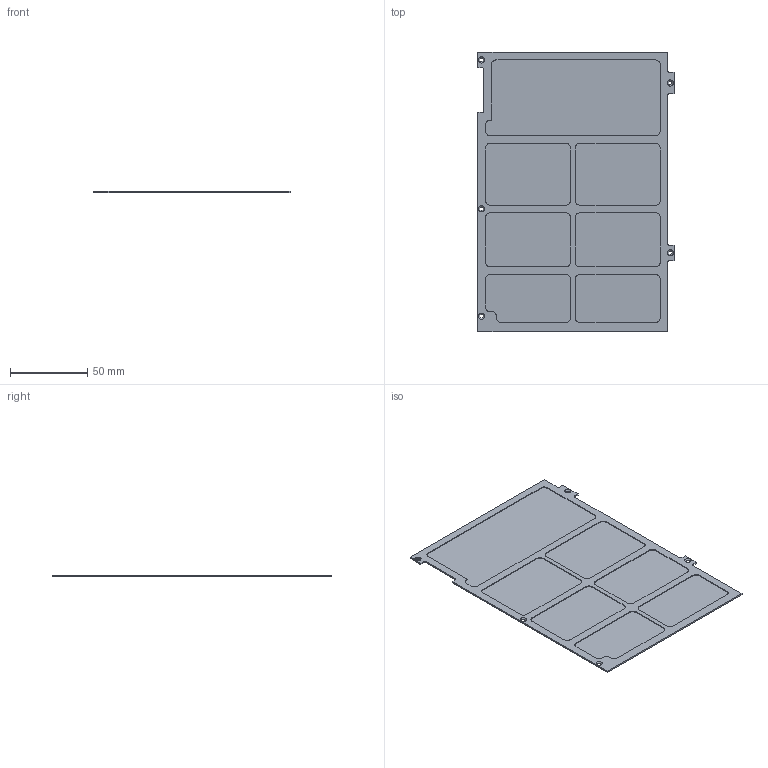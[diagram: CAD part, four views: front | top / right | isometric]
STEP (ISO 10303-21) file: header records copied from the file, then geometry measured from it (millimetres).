
FILE_DESCRIPTION (( 'STEP AP203' ), '1' );
FILE_NAME ('殑結啣6.STEP', '2026-09-24T08:51:49', ( '' ), ( '' ), 'SwSTEP 2.0', 'SolidWorks 2016', '' );
FILE_SCHEMA (( 'CONFIG_CONTROL_DESIGN' ));
Length unit declared in the file: millimetre
Products named in the file (1): 殑結啣6
Bounding box: 127 x 181 x 1 mm (x, y, z)
Volume: 13741.8 mm3; surface area: 45797.8 mm2
Topology: 1 solids, 1 shells, 114 faces, 305 edges, 200 vertices
Faces by surface type: plane 57, cylinder 47, cone 10
Entity records: 3670 total; most frequent: DIRECTION 639, CARTESIAN_POINT 620, ORIENTED_EDGE 610, EDGE_CURVE 305, AXIS2_PLACEMENT_3D 219, LINE 201, VECTOR 201, VERTEX_POINT 200
